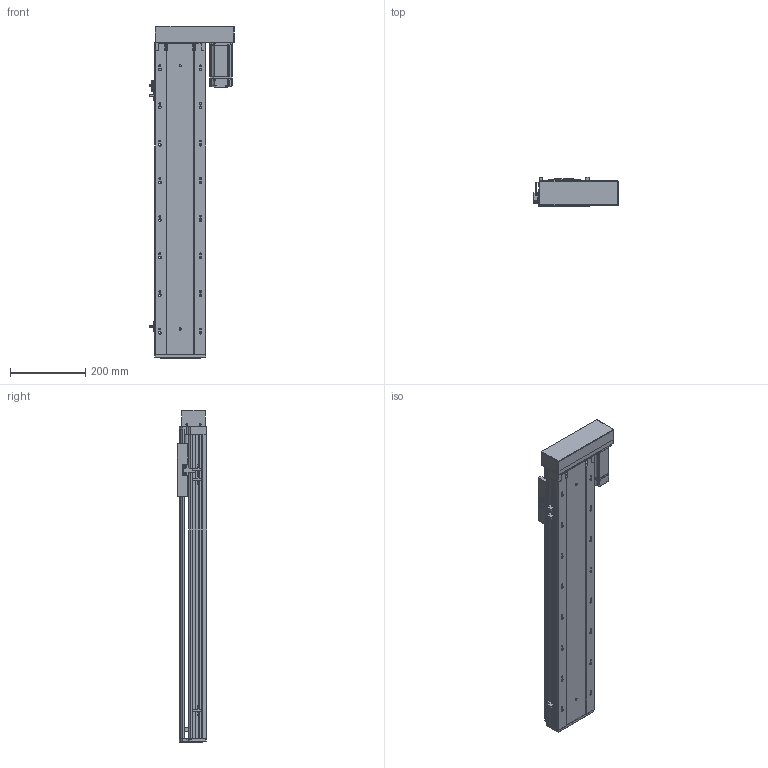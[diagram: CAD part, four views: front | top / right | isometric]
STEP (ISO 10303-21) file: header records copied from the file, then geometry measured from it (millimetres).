
FILE_DESCRIPTION (( 'STEP AP203' ), '1' );
FILE_NAME ('RY140-L1620-300-RK.SLDASM_600.step', '2021-02-22T02:54:34', ( '盈信电脑' ), ( '东莞市道滘镇水果街19号' ), 'SwSTEP 2.0', 'SolidWorks 2012', '' );
FILE_SCHEMA (( 'CONFIG_CONTROL_DESIGN' ));
Products named in the file (14): RY140-L1620-300-RK.SLDASM_600; RY120外置感应片(140共用）; RY140酘衵殏萇儂欶; 侂狟400W侜督萇儂; 覜茼ん672; 15; RY140蛌殏萇儂假蚾啣; RY140转折电机端支撑座; 滅袉蝶18-24; RY140-300蛌殏倰第奻裔啣-RK_600; RY140綴裔啣; 滅袉蝶18-10; RY140臏賑輸; RY140-300蛌殏倰第菁釱-RK_600
Assembly tree (16 placements, depth 3):
  RY140-L1620-300-RK.SLDASM_600
    RY140-300蛌殏倰第菁釱-RK_600
    RY140臏賑輸
    RY140-300蛌殏倰第奻裔啣-RK_600
    RY140綴裔啣
    滅袉蝶18-24  x2
    滅袉蝶18-10
    RY140转折电机端支撑座
    RY140蛌殏萇儂假蚾啣
    侂狟400W侜督萇儂
      15
    RY140酘衵殏萇儂欶
    覜茼ん672  x3
    RY120外置感应片(140共用）
Bounding box: 225.2 x 78 x 883 mm (x, y, z)
Volume: 3042757.8 mm3; surface area: 1102609.1 mm2
Topology: 15 solids, 15 shells, 2303 faces, 6384 edges, 4096 vertices
Faces by surface type: plane 1174, cylinder 850, cone 186, bspline 93
Entity records: 73267 total; most frequent: CARTESIAN_POINT 17863, ORIENTED_EDGE 11488, DIRECTION 10825, EDGE_CURVE 5744, VERTEX_POINT 3764, VECTOR 3665, LINE 3665, AXIS2_PLACEMENT_3D 3580
